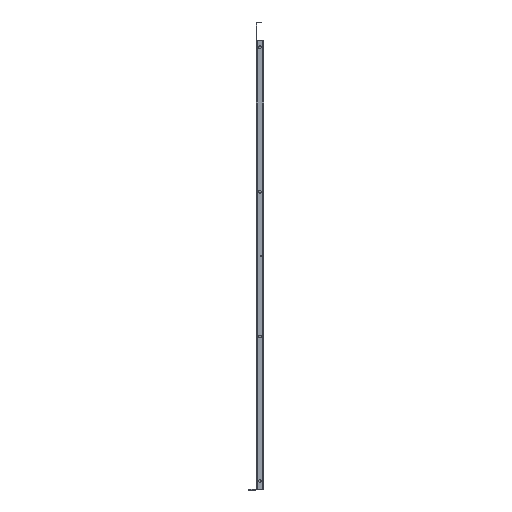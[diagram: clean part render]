
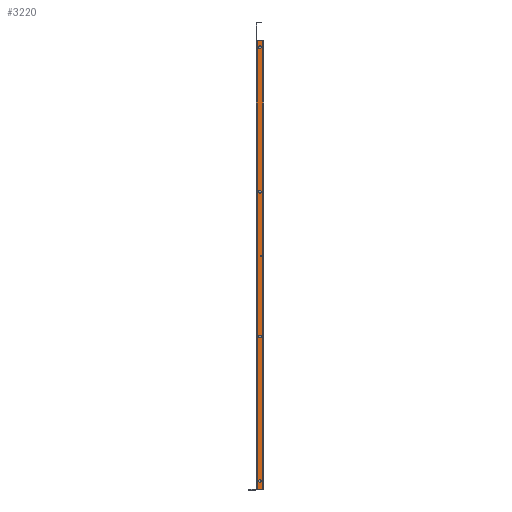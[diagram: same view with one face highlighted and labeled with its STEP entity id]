
A CAD part, left-side view. The second image highlights one B-rep face of the part: STEP entity #3220.
In plain terms, the highlighted planar face has unit normal (-1, 0, 0).
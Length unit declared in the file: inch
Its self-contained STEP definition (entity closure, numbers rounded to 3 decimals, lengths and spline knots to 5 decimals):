
#16=CARTESIAN_POINT('',(-14.76375,-0.75,-37.1035));
#17=DIRECTION('',(-1.,0.,0.));
#18=DIRECTION('',(0.,1.,0.));
#19=AXIS2_PLACEMENT_3D('',#16,#17,#18);
#25=CARTESIAN_POINT('',(-14.76375,-0.75,-37.1035));
#26=DIRECTION('',(-1.,0.,0.));
#27=DIRECTION('',(0.,-1.,0.));
#28=AXIS2_PLACEMENT_3D('',#25,#26,#27);
#33=DIRECTION('',(0.,-1.,0.));
#34=VECTOR('',#33,0.902);
#35=CARTESIAN_POINT('',(-14.76375,-0.174,-2.948));
#36=LINE('',#35,#34);
#40=CARTESIAN_POINT('',(-14.76375,-0.625,-3.948));
#41=DIRECTION('',(-1.,0.,0.));
#42=DIRECTION('',(0.,1.,0.));
#43=AXIS2_PLACEMENT_3D('',#40,#41,#42);
#48=CARTESIAN_POINT('',(-14.76375,-0.625,-3.948));
#49=DIRECTION('',(-1.,0.,0.));
#50=DIRECTION('',(0.,-1.,0.));
#51=AXIS2_PLACEMENT_3D('',#48,#49,#50);
#56=CARTESIAN_POINT('',(-14.76375,-0.625,-72.835));
#57=DIRECTION('',(-1.,0.,0.));
#58=DIRECTION('',(0.,1.,0.));
#59=AXIS2_PLACEMENT_3D('',#56,#57,#58);
#64=CARTESIAN_POINT('',(-14.76375,-0.625,-72.835));
#65=DIRECTION('',(-1.,0.,0.));
#66=DIRECTION('',(0.,-1.,0.));
#67=AXIS2_PLACEMENT_3D('',#64,#65,#66);
#72=CARTESIAN_POINT('',(-14.76375,-0.625,-49.87267));
#73=DIRECTION('',(-1.,0.,0.));
#74=DIRECTION('',(0.,1.,0.));
#75=AXIS2_PLACEMENT_3D('',#72,#73,#74);
#80=CARTESIAN_POINT('',(-14.76375,-0.625,-49.87267));
#81=DIRECTION('',(-1.,0.,0.));
#82=DIRECTION('',(0.,-1.,0.));
#83=AXIS2_PLACEMENT_3D('',#80,#81,#82);
#88=CARTESIAN_POINT('',(-14.76375,-0.625,-26.91033));
#89=DIRECTION('',(-1.,0.,0.));
#90=DIRECTION('',(0.,1.,0.));
#91=AXIS2_PLACEMENT_3D('',#88,#89,#90);
#96=CARTESIAN_POINT('',(-14.76375,-0.625,-26.91033));
#97=DIRECTION('',(-1.,0.,0.));
#98=DIRECTION('',(0.,-1.,0.));
#99=AXIS2_PLACEMENT_3D('',#96,#97,#98);
#220=DIRECTION('',(0.,0.,-1.));
#221=VECTOR('',#220,71.259);
#222=CARTESIAN_POINT('',(-14.76375,-0.174,-2.948));
#223=LINE('',#222,#221);
#249=DIRECTION('',(0.,-1.,0.));
#250=VECTOR('',#249,0.902);
#251=CARTESIAN_POINT('',(-14.76375,-0.174,-74.207));
#252=LINE('',#251,#250);
#300=DIRECTION('',(0.,0.,-1.));
#301=VECTOR('',#300,71.259);
#302=CARTESIAN_POINT('',(-14.76375,-1.076,-2.948));
#303=LINE('',#302,#301);
#2719=CARTESIAN_POINT('',(-14.76375,-0.174,-74.207));
#2721=VERTEX_POINT('',#2719);
#2744=CARTESIAN_POINT('',(-14.76375,-1.076,-74.207));
#2746=VERTEX_POINT('',#2744);
#2879=CARTESIAN_POINT('',(-14.76375,-0.6485,-37.1035));
#2880=CARTESIAN_POINT('',(-14.76375,-0.8515,-37.1035));
#2881=VERTEX_POINT('',#2879);
#2882=VERTEX_POINT('',#2880);
#2899=CARTESIAN_POINT('',(-14.76375,-0.174,-2.948));
#2900=CARTESIAN_POINT('',(-14.76375,-1.076,-2.948));
#2901=VERTEX_POINT('',#2899);
#2902=VERTEX_POINT('',#2900);
#2967=CARTESIAN_POINT('',(-14.76375,-0.40625,-3.948));
#2968=CARTESIAN_POINT('',(-14.76375,-0.84375,-3.948));
#2969=VERTEX_POINT('',#2967);
#2970=VERTEX_POINT('',#2968);
#2971=CARTESIAN_POINT('',(-14.76375,-0.40625,-72.835));
#2972=CARTESIAN_POINT('',(-14.76375,-0.84375,-72.835));
#2973=VERTEX_POINT('',#2971);
#2974=VERTEX_POINT('',#2972);
#2975=CARTESIAN_POINT('',(-14.76375,-0.40625,-49.87267));
#2976=CARTESIAN_POINT('',(-14.76375,-0.84375,-49.87267));
#2977=VERTEX_POINT('',#2975);
#2978=VERTEX_POINT('',#2976);
#2979=CARTESIAN_POINT('',(-14.76375,-0.40625,-26.91033));
#2980=CARTESIAN_POINT('',(-14.76375,-0.84375,-26.91033));
#2981=VERTEX_POINT('',#2979);
#2982=VERTEX_POINT('',#2980);
#3175=CARTESIAN_POINT('',(-14.76375,0.,0.));
#3176=DIRECTION('',(-1.,0.,0.));
#3177=DIRECTION('',(0.,-1.,0.));
#3178=AXIS2_PLACEMENT_3D('',#3175,#3176,#3177);
#3179=PLANE('',#3178);
#3181=ORIENTED_EDGE('',*,*,#3180,.T.);
#3183=ORIENTED_EDGE('',*,*,#3182,.T.);
#3185=ORIENTED_EDGE('',*,*,#3184,.F.);
#3187=ORIENTED_EDGE('',*,*,#3186,.F.);
#3188=EDGE_LOOP('',(#3181,#3183,#3185,#3187));
#3189=FACE_OUTER_BOUND('',#3188,.F.);
#3191=ORIENTED_EDGE('',*,*,#3190,.T.);
#3193=ORIENTED_EDGE('',*,*,#3192,.T.);
#3194=EDGE_LOOP('',(#3191,#3193));
#3195=FACE_BOUND('',#3194,.F.);
#3197=ORIENTED_EDGE('',*,*,#3196,.T.);
#3199=ORIENTED_EDGE('',*,*,#3198,.T.);
#3200=EDGE_LOOP('',(#3197,#3199));
#3201=FACE_BOUND('',#3200,.F.);
#3203=ORIENTED_EDGE('',*,*,#3202,.T.);
#3205=ORIENTED_EDGE('',*,*,#3204,.T.);
#3206=EDGE_LOOP('',(#3203,#3205));
#3207=FACE_BOUND('',#3206,.F.);
#3209=ORIENTED_EDGE('',*,*,#3208,.T.);
#3211=ORIENTED_EDGE('',*,*,#3210,.T.);
#3212=EDGE_LOOP('',(#3209,#3211));
#3213=FACE_BOUND('',#3212,.F.);
#3215=ORIENTED_EDGE('',*,*,#3214,.T.);
#3217=ORIENTED_EDGE('',*,*,#3216,.T.);
#3218=EDGE_LOOP('',(#3215,#3217));
#3219=FACE_BOUND('',#3218,.F.);
#20=CIRCLE('',#19,0.1015);
#29=CIRCLE('',#28,0.1015);
#44=CIRCLE('',#43,0.21875);
#52=CIRCLE('',#51,0.21875);
#60=CIRCLE('',#59,0.21875);
#68=CIRCLE('',#67,0.21875);
#76=CIRCLE('',#75,0.21875);
#84=CIRCLE('',#83,0.21875);
#92=CIRCLE('',#91,0.21875);
#100=CIRCLE('',#99,0.21875);
#3180=EDGE_CURVE('',#2901,#2902,#36,.T.);
#3182=EDGE_CURVE('',#2902,#2746,#303,.T.);
#3184=EDGE_CURVE('',#2721,#2746,#252,.T.);
#3186=EDGE_CURVE('',#2901,#2721,#223,.T.);
#3190=EDGE_CURVE('',#2881,#2882,#20,.T.);
#3192=EDGE_CURVE('',#2882,#2881,#29,.T.);
#3196=EDGE_CURVE('',#2969,#2970,#44,.T.);
#3198=EDGE_CURVE('',#2970,#2969,#52,.T.);
#3202=EDGE_CURVE('',#2973,#2974,#60,.T.);
#3204=EDGE_CURVE('',#2974,#2973,#68,.T.);
#3208=EDGE_CURVE('',#2977,#2978,#76,.T.);
#3210=EDGE_CURVE('',#2978,#2977,#84,.T.);
#3214=EDGE_CURVE('',#2981,#2982,#92,.T.);
#3216=EDGE_CURVE('',#2982,#2981,#100,.T.);
#3220=ADVANCED_FACE('',(#3189,#3195,#3201,#3207,#3213,#3219),#3179,.T.);
